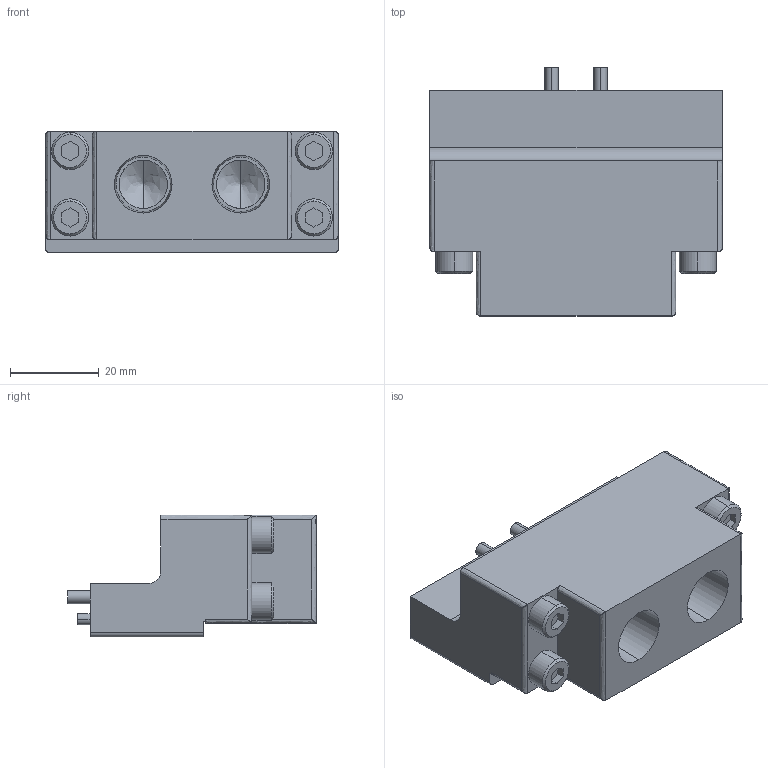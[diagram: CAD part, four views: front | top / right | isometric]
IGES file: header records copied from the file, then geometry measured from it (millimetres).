
Start section: 3D InterOp IGES (v. 2022 1.0.0), Spatial Corp. Copyright (c) 1999-2020.
Global section: file name: KHG-12RS-EP82_ver1.igs; native system: Spatial Corp.; preprocessor: 3D InterOp GENERIC/IGES 3.0; author: Noname; organization: Noname; date: 20260518.092337; units: millimetre
Bounding box: 66 x 56 x 27.5 mm (x, y, z)
Surface area: 17513 mm2 (no closed solid volume)
Topology: 0 solids, 0 shells, 206 faces, 928 edges, 924 vertices
Faces by surface type: revolution 106, extrusion 100
